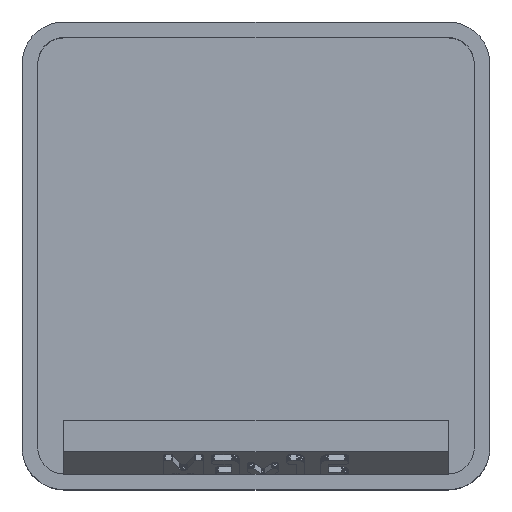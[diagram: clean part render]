
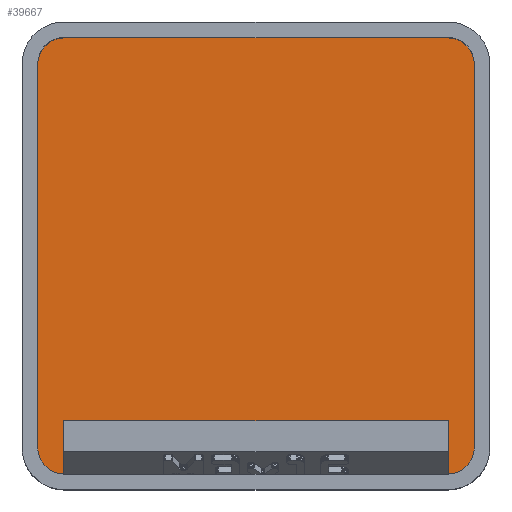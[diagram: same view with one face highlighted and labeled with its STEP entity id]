
A CAD part, top view. The second image highlights one B-rep face of the part: STEP entity #39667.
In plain terms, the highlighted planar face has unit normal (0, 0, 1).
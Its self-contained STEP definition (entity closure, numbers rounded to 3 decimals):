
#912 = PLANE('',#913);
#913 = AXIS2_PLACEMENT_3D('',#914,#915,#916);
#914 = CARTESIAN_POINT('',(-19.6,0.,25.));
#915 = DIRECTION('',(-1.,0.,0.));
#916 = DIRECTION('',(-0.,-1.,-0.));
#940 = CYLINDRICAL_SURFACE('',#941,2.35);
#941 = AXIS2_PLACEMENT_3D('',#942,#943,#944);
#942 = CARTESIAN_POINT('',(-17.25,17.25,5.95));
#943 = DIRECTION('',(-0.,-0.,1.));
#944 = DIRECTION('',(-1.,0.,0.));
#967 = PLANE('',#968);
#968 = AXIS2_PLACEMENT_3D('',#969,#970,#971);
#969 = CARTESIAN_POINT('',(0.,19.6,25.));
#970 = DIRECTION('',(0.,1.,0.));
#971 = DIRECTION('',(-1.,0.,0.));
#995 = CYLINDRICAL_SURFACE('',#996,2.35);
#996 = AXIS2_PLACEMENT_3D('',#997,#998,#999);
#997 = CARTESIAN_POINT('',(17.25,17.25,5.95));
#998 = DIRECTION('',(-0.,-0.,1.));
#999 = DIRECTION('',(-1.,0.,0.));
#1022 = PLANE('',#1023);
#1023 = AXIS2_PLACEMENT_3D('',#1024,#1025,#1026);
#1024 = CARTESIAN_POINT('',(19.6,0.,25.));
#1025 = DIRECTION('',(1.,0.,0.));
#1026 = DIRECTION('',(-0.,1.,0.));
#1050 = CYLINDRICAL_SURFACE('',#1051,2.35);
#1051 = AXIS2_PLACEMENT_3D('',#1052,#1053,#1054);
#1052 = CARTESIAN_POINT('',(17.25,-17.25,5.95));
#1053 = DIRECTION('',(-0.,-0.,1.));
#1054 = DIRECTION('',(-1.,0.,0.));
#1103 = CYLINDRICAL_SURFACE('',#1104,2.35);
#1104 = AXIS2_PLACEMENT_3D('',#1105,#1106,#1107);
#1105 = CARTESIAN_POINT('',(-17.25,-17.25,5.95));
#1106 = DIRECTION('',(-0.,-0.,1.));
#1107 = DIRECTION('',(-1.,0.,0.));
#14719 = EDGE_CURVE('',#14720,#14722,#14724,.T.);
#14720 = VERTEX_POINT('',#14721);
#14721 = CARTESIAN_POINT('',(-19.6,-17.25,5.95));
#14722 = VERTEX_POINT('',#14723);
#14723 = CARTESIAN_POINT('',(-19.6,17.25,5.95));
#14724 = SURFACE_CURVE('',#14725,(#14729,#14736),.PCURVE_S1.);
#14725 = LINE('',#14726,#14727);
#14726 = CARTESIAN_POINT('',(-19.6,0.,5.95));
#14727 = VECTOR('',#14728,1.);
#14728 = DIRECTION('',(0.,1.,0.));
#14729 = PCURVE('',#912,#14730);
#14730 = DEFINITIONAL_REPRESENTATION('',(#14731),#14735);
#14731 = LINE('',#14732,#14733);
#14732 = CARTESIAN_POINT('',(0.,-19.05));
#14733 = VECTOR('',#14734,1.);
#14734 = DIRECTION('',(-1.,0.));
#14735 = ( GEOMETRIC_REPRESENTATION_CONTEXT(2) 
PARAMETRIC_REPRESENTATION_CONTEXT() REPRESENTATION_CONTEXT('2D SPACE',''
  ) );
#14736 = PCURVE('',#14737,#14742);
#14737 = PLANE('',#14738);
#14738 = AXIS2_PLACEMENT_3D('',#14739,#14740,#14741);
#14739 = CARTESIAN_POINT('',(-17.25,-17.25,5.95));
#14740 = DIRECTION('',(0.,0.,-1.));
#14741 = DIRECTION('',(-1.,0.,0.));
#14742 = DEFINITIONAL_REPRESENTATION('',(#14743),#14747);
#14743 = LINE('',#14744,#14745);
#14744 = CARTESIAN_POINT('',(2.35,17.25));
#14745 = VECTOR('',#14746,1.);
#14746 = DIRECTION('',(0.,1.));
#14747 = ( GEOMETRIC_REPRESENTATION_CONTEXT(2) 
PARAMETRIC_REPRESENTATION_CONTEXT() REPRESENTATION_CONTEXT('2D SPACE',''
  ) );
#14794 = EDGE_CURVE('',#14795,#14720,#14797,.T.);
#14795 = VERTEX_POINT('',#14796);
#14796 = CARTESIAN_POINT('',(-17.25,-19.6,5.95));
#14797 = SURFACE_CURVE('',#14798,(#14803,#14810),.PCURVE_S1.);
#14798 = CIRCLE('',#14799,2.35);
#14799 = AXIS2_PLACEMENT_3D('',#14800,#14801,#14802);
#14800 = CARTESIAN_POINT('',(-17.25,-17.25,5.95));
#14801 = DIRECTION('',(0.,0.,-1.));
#14802 = DIRECTION('',(-1.,0.,0.));
#14803 = PCURVE('',#1103,#14804);
#14804 = DEFINITIONAL_REPRESENTATION('',(#14805),#14809);
#14805 = LINE('',#14806,#14807);
#14806 = CARTESIAN_POINT('',(6.283,0.));
#14807 = VECTOR('',#14808,1.);
#14808 = DIRECTION('',(-1.,0.));
#14809 = ( GEOMETRIC_REPRESENTATION_CONTEXT(2) 
PARAMETRIC_REPRESENTATION_CONTEXT() REPRESENTATION_CONTEXT('2D SPACE',''
  ) );
#14810 = PCURVE('',#14737,#14811);
#14811 = DEFINITIONAL_REPRESENTATION('',(#14812),#14816);
#14812 = CIRCLE('',#14813,2.35);
#14813 = AXIS2_PLACEMENT_2D('',#14814,#14815);
#14814 = CARTESIAN_POINT('',(0.,0.));
#14815 = DIRECTION('',(1.,0.));
#14816 = ( GEOMETRIC_REPRESENTATION_CONTEXT(2) 
PARAMETRIC_REPRESENTATION_CONTEXT() REPRESENTATION_CONTEXT('2D SPACE',''
  ) );
#14834 = PLANE('',#14835);
#14835 = AXIS2_PLACEMENT_3D('',#14836,#14837,#14838);
#14836 = CARTESIAN_POINT('',(0.,-19.6,25.));
#14837 = DIRECTION('',(0.,-1.,0.));
#14838 = DIRECTION('',(1.,0.,0.));
#14921 = EDGE_CURVE('',#14922,#14924,#14926,.T.);
#14922 = VERTEX_POINT('',#14923);
#14923 = CARTESIAN_POINT('',(19.6,-17.25,5.95));
#14924 = VERTEX_POINT('',#14925);
#14925 = CARTESIAN_POINT('',(17.25,-19.6,5.95));
#14926 = SURFACE_CURVE('',#14927,(#14932,#14939),.PCURVE_S1.);
#14927 = CIRCLE('',#14928,2.35);
#14928 = AXIS2_PLACEMENT_3D('',#14929,#14930,#14931);
#14929 = CARTESIAN_POINT('',(17.25,-17.25,5.95));
#14930 = DIRECTION('',(0.,0.,-1.));
#14931 = DIRECTION('',(-1.,0.,0.));
#14932 = PCURVE('',#1050,#14933);
#14933 = DEFINITIONAL_REPRESENTATION('',(#14934),#14938);
#14934 = LINE('',#14935,#14936);
#14935 = CARTESIAN_POINT('',(6.283,0.));
#14936 = VECTOR('',#14937,1.);
#14937 = DIRECTION('',(-1.,0.));
#14938 = ( GEOMETRIC_REPRESENTATION_CONTEXT(2) 
PARAMETRIC_REPRESENTATION_CONTEXT() REPRESENTATION_CONTEXT('2D SPACE',''
  ) );
#14939 = PCURVE('',#14737,#14940);
#14940 = DEFINITIONAL_REPRESENTATION('',(#14941),#14945);
#14941 = CIRCLE('',#14942,2.35);
#14942 = AXIS2_PLACEMENT_2D('',#14943,#14944);
#14943 = CARTESIAN_POINT('',(-34.5,0.));
#14944 = DIRECTION('',(1.,0.));
#14945 = ( GEOMETRIC_REPRESENTATION_CONTEXT(2) 
PARAMETRIC_REPRESENTATION_CONTEXT() REPRESENTATION_CONTEXT('2D SPACE',''
  ) );
#15019 = EDGE_CURVE('',#14922,#15020,#15022,.T.);
#15020 = VERTEX_POINT('',#15021);
#15021 = CARTESIAN_POINT('',(19.6,17.25,5.95));
#15022 = SURFACE_CURVE('',#15023,(#15027,#15034),.PCURVE_S1.);
#15023 = LINE('',#15024,#15025);
#15024 = CARTESIAN_POINT('',(19.6,0.,5.95));
#15025 = VECTOR('',#15026,1.);
#15026 = DIRECTION('',(0.,1.,0.));
#15027 = PCURVE('',#1022,#15028);
#15028 = DEFINITIONAL_REPRESENTATION('',(#15029),#15033);
#15029 = LINE('',#15030,#15031);
#15030 = CARTESIAN_POINT('',(0.,-19.05));
#15031 = VECTOR('',#15032,1.);
#15032 = DIRECTION('',(1.,0.));
#15033 = ( GEOMETRIC_REPRESENTATION_CONTEXT(2) 
PARAMETRIC_REPRESENTATION_CONTEXT() REPRESENTATION_CONTEXT('2D SPACE',''
  ) );
#15034 = PCURVE('',#14737,#15035);
#15035 = DEFINITIONAL_REPRESENTATION('',(#15036),#15040);
#15036 = LINE('',#15037,#15038);
#15037 = CARTESIAN_POINT('',(-36.85,17.25));
#15038 = VECTOR('',#15039,1.);
#15039 = DIRECTION('',(0.,1.));
#15040 = ( GEOMETRIC_REPRESENTATION_CONTEXT(2) 
PARAMETRIC_REPRESENTATION_CONTEXT() REPRESENTATION_CONTEXT('2D SPACE',''
  ) );
#15067 = EDGE_CURVE('',#15068,#15020,#15070,.T.);
#15068 = VERTEX_POINT('',#15069);
#15069 = CARTESIAN_POINT('',(17.25,19.6,5.95));
#15070 = SURFACE_CURVE('',#15071,(#15076,#15083),.PCURVE_S1.);
#15071 = CIRCLE('',#15072,2.35);
#15072 = AXIS2_PLACEMENT_3D('',#15073,#15074,#15075);
#15073 = CARTESIAN_POINT('',(17.25,17.25,5.95));
#15074 = DIRECTION('',(0.,0.,-1.));
#15075 = DIRECTION('',(-1.,0.,0.));
#15076 = PCURVE('',#995,#15077);
#15077 = DEFINITIONAL_REPRESENTATION('',(#15078),#15082);
#15078 = LINE('',#15079,#15080);
#15079 = CARTESIAN_POINT('',(6.283,0.));
#15080 = VECTOR('',#15081,1.);
#15081 = DIRECTION('',(-1.,0.));
#15082 = ( GEOMETRIC_REPRESENTATION_CONTEXT(2) 
PARAMETRIC_REPRESENTATION_CONTEXT() REPRESENTATION_CONTEXT('2D SPACE',''
  ) );
#15083 = PCURVE('',#14737,#15084);
#15084 = DEFINITIONAL_REPRESENTATION('',(#15085),#15089);
#15085 = CIRCLE('',#15086,2.35);
#15086 = AXIS2_PLACEMENT_2D('',#15087,#15088);
#15087 = CARTESIAN_POINT('',(-34.5,34.5));
#15088 = DIRECTION('',(1.,0.));
#15089 = ( GEOMETRIC_REPRESENTATION_CONTEXT(2) 
PARAMETRIC_REPRESENTATION_CONTEXT() REPRESENTATION_CONTEXT('2D SPACE',''
  ) );
#15117 = EDGE_CURVE('',#15118,#15068,#15120,.T.);
#15118 = VERTEX_POINT('',#15119);
#15119 = CARTESIAN_POINT('',(-17.25,19.6,5.95));
#15120 = SURFACE_CURVE('',#15121,(#15125,#15132),.PCURVE_S1.);
#15121 = LINE('',#15122,#15123);
#15122 = CARTESIAN_POINT('',(0.,19.6,5.95));
#15123 = VECTOR('',#15124,1.);
#15124 = DIRECTION('',(1.,0.,0.));
#15125 = PCURVE('',#967,#15126);
#15126 = DEFINITIONAL_REPRESENTATION('',(#15127),#15131);
#15127 = LINE('',#15128,#15129);
#15128 = CARTESIAN_POINT('',(0.,-19.05));
#15129 = VECTOR('',#15130,1.);
#15130 = DIRECTION('',(-1.,0.));
#15131 = ( GEOMETRIC_REPRESENTATION_CONTEXT(2) 
PARAMETRIC_REPRESENTATION_CONTEXT() REPRESENTATION_CONTEXT('2D SPACE',''
  ) );
#15132 = PCURVE('',#14737,#15133);
#15133 = DEFINITIONAL_REPRESENTATION('',(#15134),#15138);
#15134 = LINE('',#15135,#15136);
#15135 = CARTESIAN_POINT('',(-17.25,36.85));
#15136 = VECTOR('',#15137,1.);
#15137 = DIRECTION('',(-1.,0.));
#15138 = ( GEOMETRIC_REPRESENTATION_CONTEXT(2) 
PARAMETRIC_REPRESENTATION_CONTEXT() REPRESENTATION_CONTEXT('2D SPACE',''
  ) );
#15166 = EDGE_CURVE('',#14722,#15118,#15167,.T.);
#15167 = SURFACE_CURVE('',#15168,(#15173,#15180),.PCURVE_S1.);
#15168 = CIRCLE('',#15169,2.35);
#15169 = AXIS2_PLACEMENT_3D('',#15170,#15171,#15172);
#15170 = CARTESIAN_POINT('',(-17.25,17.25,5.95));
#15171 = DIRECTION('',(0.,0.,-1.));
#15172 = DIRECTION('',(-1.,0.,0.));
#15173 = PCURVE('',#940,#15174);
#15174 = DEFINITIONAL_REPRESENTATION('',(#15175),#15179);
#15175 = LINE('',#15176,#15177);
#15176 = CARTESIAN_POINT('',(6.283,0.));
#15177 = VECTOR('',#15178,1.);
#15178 = DIRECTION('',(-1.,0.));
#15179 = ( GEOMETRIC_REPRESENTATION_CONTEXT(2) 
PARAMETRIC_REPRESENTATION_CONTEXT() REPRESENTATION_CONTEXT('2D SPACE',''
  ) );
#15180 = PCURVE('',#14737,#15181);
#15181 = DEFINITIONAL_REPRESENTATION('',(#15182),#15186);
#15182 = CIRCLE('',#15183,2.35);
#15183 = AXIS2_PLACEMENT_2D('',#15184,#15185);
#15184 = CARTESIAN_POINT('',(0.,34.5));
#15185 = DIRECTION('',(1.,0.));
#15186 = ( GEOMETRIC_REPRESENTATION_CONTEXT(2) 
PARAMETRIC_REPRESENTATION_CONTEXT() REPRESENTATION_CONTEXT('2D SPACE',''
  ) );
#39667 = ADVANCED_FACE('',(#39668),#14737,.F.);
#39668 = FACE_BOUND('',#39669,.T.);
#39669 = EDGE_LOOP('',(#39670,#39671,#39672,#39693,#39694,#39695,#39696,
    #39697));
#39670 = ORIENTED_EDGE('',*,*,#14719,.F.);
#39671 = ORIENTED_EDGE('',*,*,#14794,.F.);
#39672 = ORIENTED_EDGE('',*,*,#39673,.T.);
#39673 = EDGE_CURVE('',#14795,#14924,#39674,.T.);
#39674 = SURFACE_CURVE('',#39675,(#39679,#39686),.PCURVE_S1.);
#39675 = LINE('',#39676,#39677);
#39676 = CARTESIAN_POINT('',(0.,-19.6,5.95));
#39677 = VECTOR('',#39678,1.);
#39678 = DIRECTION('',(1.,0.,0.));
#39679 = PCURVE('',#14737,#39680);
#39680 = DEFINITIONAL_REPRESENTATION('',(#39681),#39685);
#39681 = LINE('',#39682,#39683);
#39682 = CARTESIAN_POINT('',(-17.25,-2.35));
#39683 = VECTOR('',#39684,1.);
#39684 = DIRECTION('',(-1.,0.));
#39685 = ( GEOMETRIC_REPRESENTATION_CONTEXT(2) 
PARAMETRIC_REPRESENTATION_CONTEXT() REPRESENTATION_CONTEXT('2D SPACE',''
  ) );
#39686 = PCURVE('',#14834,#39687);
#39687 = DEFINITIONAL_REPRESENTATION('',(#39688),#39692);
#39688 = LINE('',#39689,#39690);
#39689 = CARTESIAN_POINT('',(0.,-19.05));
#39690 = VECTOR('',#39691,1.);
#39691 = DIRECTION('',(1.,0.));
#39692 = ( GEOMETRIC_REPRESENTATION_CONTEXT(2) 
PARAMETRIC_REPRESENTATION_CONTEXT() REPRESENTATION_CONTEXT('2D SPACE',''
  ) );
#39693 = ORIENTED_EDGE('',*,*,#14921,.F.);
#39694 = ORIENTED_EDGE('',*,*,#15019,.T.);
#39695 = ORIENTED_EDGE('',*,*,#15067,.F.);
#39696 = ORIENTED_EDGE('',*,*,#15117,.F.);
#39697 = ORIENTED_EDGE('',*,*,#15166,.F.);
